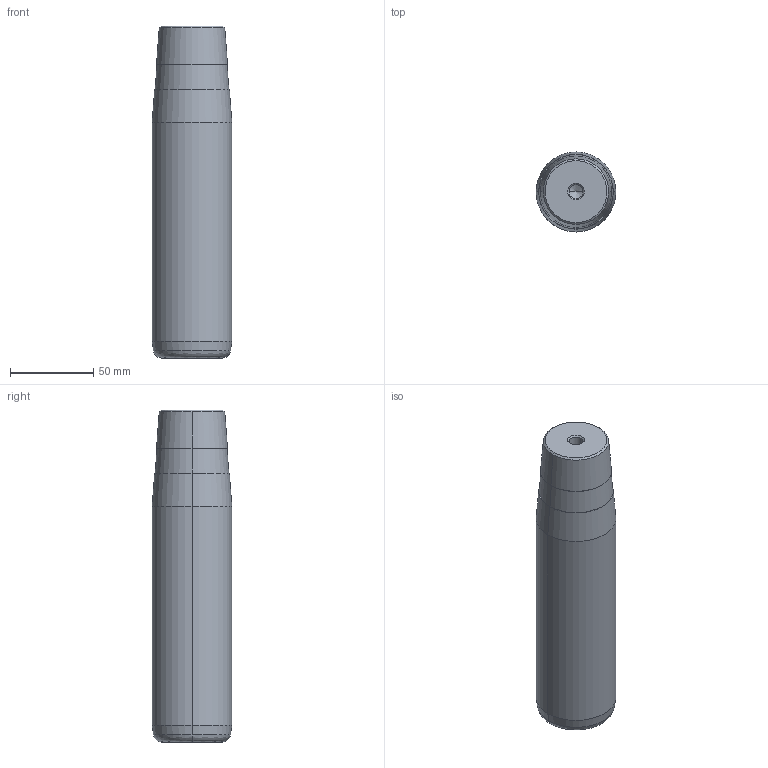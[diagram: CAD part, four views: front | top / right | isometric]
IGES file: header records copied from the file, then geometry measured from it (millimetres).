
Start section: START RECORD GO HERE.
Global section: file name: 722-48x160x200.igs; native system: DASSAULT SYSTEMES CATIA V5 R20 - www.3ds.com; preprocessor: CATIA Version 5 Release 20 ; author: Utente; organization: NB04-ASUS; date: 20210108.160502; units: millimetre
Bounding box: 48 x 48 x 200 mm (x, y, z)
Surface area: 33294.1 mm2 (no closed solid volume)
Topology: 0 solids, 0 shells, 32 faces, 128 edges, 124 vertices
Faces by surface type: revolution 30, plane 2
